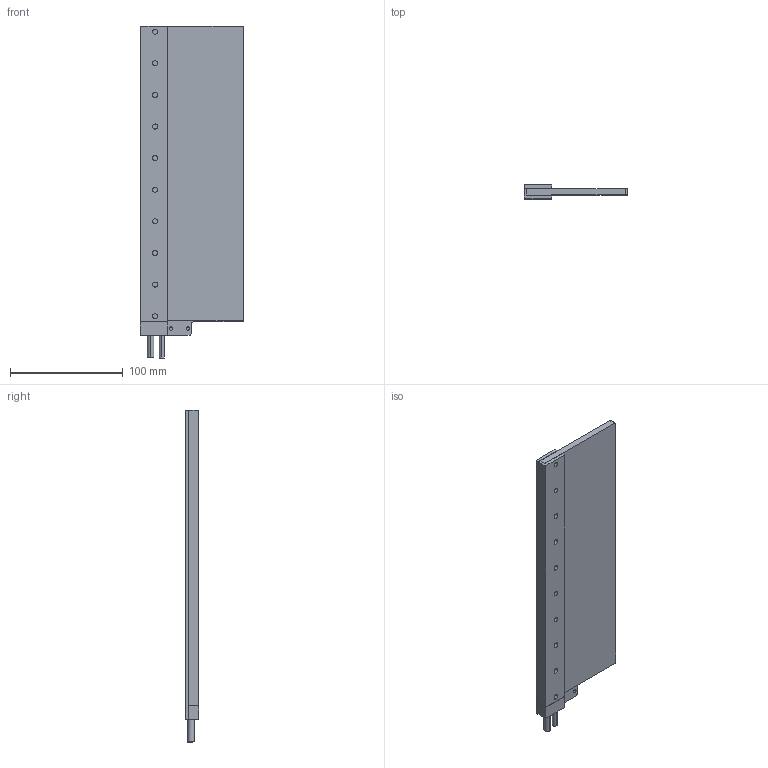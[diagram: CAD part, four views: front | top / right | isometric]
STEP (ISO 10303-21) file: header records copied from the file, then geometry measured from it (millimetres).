
FILE_DESCRIPTION (( 'STEP AP203' ), '1' );
FILE_NAME ('IL9-91 assembly 3D.STEP', '2022-10-28T06:51:43', ( '' ), ( '' ), 'SwSTEP 2.0', 'SolidWorks 2021', '' );
FILE_SCHEMA (( 'CONFIG_CONTROL_DESIGN' ));
Length unit declared in the file: millimetre
Products named in the file (1): IL9-91 assembly 3D
Bounding box: 91.3 x 12 x 294 mm (x, y, z)
Volume: 175892.8 mm3; surface area: 86250.9 mm2
Topology: 3 solids, 3 shells, 198 faces, 541 edges, 346 vertices
Faces by surface type: cylinder 116, plane 58, cone 24
Entity records: 6507 total; most frequent: CARTESIAN_POINT 1185, DIRECTION 1142, ORIENTED_EDGE 1062, EDGE_CURVE 531, AXIS2_PLACEMENT_3D 431, VERTEX_POINT 346, LINE 280, VECTOR 280
